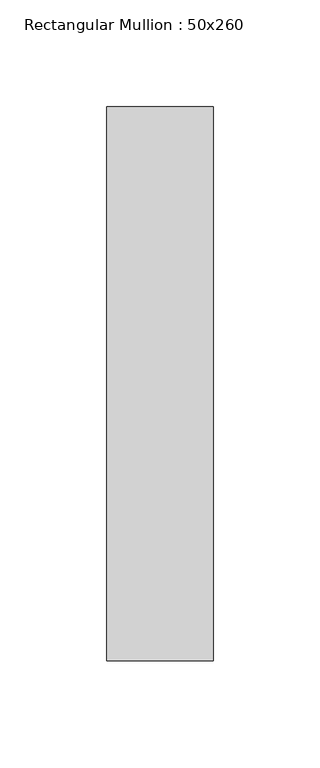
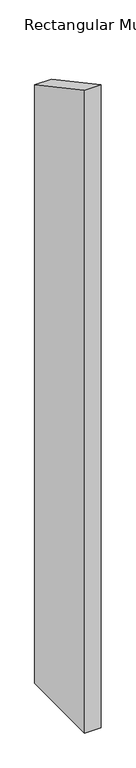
"""IFC4 building model written with IfcOpenShell, lengths in millimetres: member geometry, Rectangular Mullion : 50x260."""

from ifc_helpers import new_model, si_unit, frame, origin, place, context, project, spatial, polyline, outline, extrude, source, transform, mapped, element, save


def rectangular_mullion_50x260_b1a25379(model_context):
    return source(origin(), model_context, "Body", "SweptSolid", [
        extrude(outline(polyline([(-130.0, 70.6767922), (130.0, -70.6767922), (130.0, -1972.8938486), (-130.0, -1972.8938486), (-130.0, 70.6767922)])), frame((-50.0, 0.0, 0.0), z_axis=(1.0, 0.0, 0.0), x_axis=(0.0, 1.0, 0.0)), (0.0, 0.0, 1.0), 50.0),
    ])


if __name__ == "__main__":
    model = new_model("IFC4")
    model_context = context("Model", 3, world=origin())
    ifc_project = project(units=[si_unit("LENGTHUNIT", "METRE", prefix="MILLI")], contexts=[model_context])
    site = spatial("IfcSite", under=ifc_project)
    building = spatial("IfcBuilding", under=site)
    placement = place(None, origin())
    rectangular_mullion_50x260_shape = rectangular_mullion_50x260_b1a25379(model_context)
    element("IfcMember", 1, ObjectType="Rectangular Mullion : 50x260", at=placement, inside=building, context=model_context, shape_type="MappedRepresentation", body=[
        mapped(rectangular_mullion_50x260_shape, transform((0.0, 0.0, 0.0), x_axis=(1.0, 0.0, 0.0), y_axis=(0.0, 1.0, 0.0), z_axis=(0.0, 0.0, 1.0))),
    ])
    save(model, "model.ifc")
